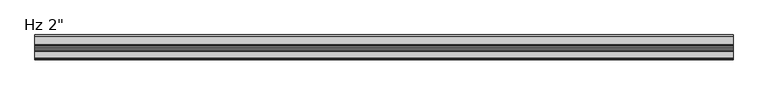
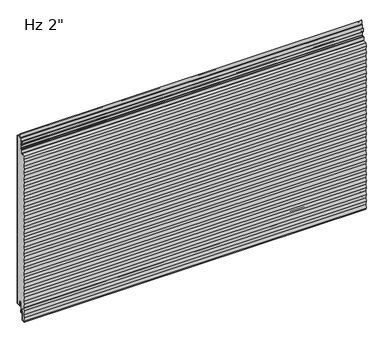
"""IFC4 building model written with IfcOpenShell, lengths in millimetres: plate geometry."""

from ifc_helpers import new_model, si_unit, point, frame, frame_2d, origin, place, context, project, spatial, polyline, circle_curve, ellipse_curve, trimmed, segment, composite_curve, outline, extrude, source, transform, mapped, element, save
from ifc_brep_helpers import plane_surface, cylinder_surface, revolved_surface, extruded_surface, advanced_brep


def plate_5dd44344(model_context):
    return source(origin(), model_context, "Body", "SolidModel", [
        extrude(outline(composite_curve([segment(polyline([(-22.8125, 716.9620957), (-22.8125, 760.20625), (-2.38125, 760.20625)]), True, "CONTINUOUS"), segment(trimmed(circle_curve(frame_2d((-2.38125, 758.825)), 1.38125), [point((-2.38125, 760.20625))], [point((-1.0, 758.825))], False, "CARTESIAN"), True, "CONTINUOUS"), segment(polyline([(-1.0, 758.825), (-1.0, 3.175)]), True, "CONTINUOUS"), segment(trimmed(circle_curve(frame_2d((-2.38125, 3.175)), 1.38125), [point((-1.0, 3.175))], [point((-2.38125, 1.79375))], False, "CARTESIAN"), True, "CONTINUOUS"), segment(polyline([(-2.38125, 1.79375), (-15.08125, 1.79375)]), True, "CONTINUOUS"), segment(trimmed(circle_curve(frame_2d((-15.08125, 3.175)), 1.38125), [point((-15.08125, 1.79375))], [point((-16.4625, 3.175))], False, "CARTESIAN"), True, "CONTINUOUS"), segment(polyline([(-16.4625, 3.175), (-16.4625, 19.05)]), True, "CONTINUOUS"), segment(trimmed(circle_curve(frame_2d((-21.43125, 19.05)), 4.96875), [point((-16.4625, 19.05))], [point((-26.4, 19.05))], True, "CARTESIAN"), True, "CONTINUOUS"), segment(polyline([(-26.4, 19.05), (-26.4, -6.9375), (-30.95625, -6.9375)]), True, "CONTINUOUS"), segment(trimmed(circle_curve(frame_2d((-30.95625, -11.90625)), 4.96875), [point((-30.95625, -6.9375))], [point((-35.925, -11.90625))], True, "CARTESIAN"), True, "CONTINUOUS"), segment(polyline([(-35.925, -11.90625), (-35.925, -50.0895546)]), True, "CONTINUOUS"), segment(trimmed(circle_curve(frame_2d((-37.30625, -50.0895546)), 1.38125), [point((-35.925, -50.0895546))], [point((-37.233961, -51.4689117))], False, "CARTESIAN"), True, "CONTINUOUS"), segment(polyline([(-37.233961, -51.4689117), (-50.4085109, -52.1593606), (-50.9378194, -48.8511825), (-48.4994194, -33.6111825), (-50.9378194, -18.3711825), (-48.4994194, -3.1311825), (-50.9378194, 12.1088175), (-48.4994194, 27.3488175), (-50.9378194, 42.5888175), (-48.4994194, 57.8288175), (-50.9378194, 73.0688175), (-48.4994194, 88.3088175), (-50.9378194, 103.5488175), (-48.4994194, 118.7888175), (-50.9378194, 134.0288175), (-48.4994194, 149.2688175), (-50.9378194, 164.5088175), (-48.4994194, 179.7488175), (-50.9378194, 194.9888175), (-48.4994194, 210.2288175), (-50.9378194, 225.4688175), (-48.4994194, 240.7088175), (-50.9378194, 255.9488175), (-48.4994194, 271.1888175), (-50.9378194, 286.4288175), (-48.4994194, 301.6688175), (-50.9378194, 316.9088175), (-48.4994194, 332.1488175), (-50.9378194, 347.3888175), (-48.4994194, 362.6288175), (-50.9378194, 377.8688175), (-48.4994194, 393.1088175), (-50.9378194, 408.3488175), (-48.4994194, 423.5888175), (-50.9378194, 438.8288175), (-48.4994194, 454.0688175), (-50.9378194, 469.3088175), (-48.4994194, 484.5488175), (-50.9378194, 499.7888175), (-48.4994194, 515.0288175), (-50.9378194, 530.2688175), (-48.4994194, 545.5088175), (-50.9378194, 560.7488175), (-48.4994194, 575.9888175), (-50.9378194, 591.2288175), (-48.4994194, 606.4688175), (-50.9378194, 621.7088175), (-48.4994194, 636.9488175), (-50.9378194, 652.1888175), (-48.4994194, 667.4288175), (-50.9378194, 682.6688175), (-48.9326745, 695.2009726), (-34.7895807, 695.9421807)]), True, "CONTINUOUS"), segment(trimmed(circle_curve(frame_2d((-34.925, 698.5261347)), 2.5875), [point((-34.7895807, 695.9421807))], [point((-32.3375, 698.5261347))], True, "CARTESIAN"), True, "CONTINUOUS"), segment(polyline([(-32.3375, 698.5261347), (-32.3375, 712.6967085)]), True, "CONTINUOUS"), segment(trimmed(circle_curve(frame_2d((-30.95625, 712.6967085)), 1.38125), [point((-32.3375, 712.6967085))], [point((-31.028539, 714.0760655))], False, "CARTESIAN"), True, "CONTINUOUS"), segment(polyline([(-31.028539, 714.0760655), (-25.2645807, 714.3781418)]), True, "CONTINUOUS"), segment(trimmed(circle_curve(frame_2d((-25.4, 716.9620957)), 2.5875), [point((-25.2645807, 714.3781418))], [point((-22.8125, 716.9620957))], True, "CARTESIAN"), True, "CONTINUOUS")], self_intersect=False)), frame((-730.0, 0.0, 0.0), z_axis=(1.0, 0.0, 0.0), x_axis=(0.0, 1.0, 0.0)), (0.0, 0.0, 1.0), 1460.0),
        extrude(outline(composite_curve([segment(polyline([(-25.4, 0.79375), (-26.4, 0.79375), (-26.4, 19.05)]), True, "CONTINUOUS"), segment(trimmed(circle_curve(frame_2d((-21.43125, 19.05)), 4.96875), [point((-26.4, 19.05))], [point((-16.4625, 19.05))], False, "CARTESIAN"), True, "CONTINUOUS"), segment(polyline([(-16.4625, 19.05), (-16.4625, 3.175)]), True, "CONTINUOUS"), segment(trimmed(circle_curve(frame_2d((-15.08125, 3.175)), 1.38125), [point((-16.4625, 3.175))], [point((-15.08125, 1.79375))], True, "CARTESIAN"), True, "CONTINUOUS"), segment(polyline([(-15.08125, 1.79375), (-2.38125, 1.79375)]), True, "CONTINUOUS"), segment(trimmed(circle_curve(frame_2d((-2.38125, 3.175)), 1.38125), [point((-2.38125, 1.79375))], [point((-1.0, 3.175))], True, "CARTESIAN"), True, "CONTINUOUS"), segment(polyline([(-1.0, 3.175), (-1.0, 758.825)]), True, "CONTINUOUS"), segment(trimmed(circle_curve(frame_2d((-2.38125, 758.825)), 1.38125), [point((-1.0, 758.825))], [point((-2.38125, 760.20625))], True, "CARTESIAN"), True, "CONTINUOUS"), segment(polyline([(-2.38125, 760.20625), (-19.446875, 760.20625)]), True, "CONTINUOUS"), segment(trimmed(circle_curve(frame_2d((-19.446875, 762.79375)), 2.5875), [point((-19.446875, 760.20625))], [point((-22.034375, 762.79375))], False, "CARTESIAN"), True, "CONTINUOUS"), segment(polyline([(-22.034375, 762.79375), (-22.034375, 780.25625), (-21.034375, 780.25625), (-21.034375, 762.79375)]), True, "CONTINUOUS"), segment(trimmed(circle_curve(frame_2d((-19.446875, 762.79375)), 1.5875), [point((-21.034375, 762.79375))], [point((-19.446875, 761.20625))], True, "CARTESIAN"), True, "CONTINUOUS"), segment(polyline([(-19.446875, 761.20625), (-2.38125, 761.20625)]), True, "CONTINUOUS"), segment(trimmed(circle_curve(frame_2d((-2.38125, 758.825)), 2.38125), [point((-2.38125, 761.20625))], [point((0.0, 758.825))], False, "CARTESIAN"), True, "CONTINUOUS"), segment(polyline([(0.0, 758.825), (0.0, 3.175)]), True, "CONTINUOUS"), segment(trimmed(circle_curve(frame_2d((-2.38125, 3.175)), 2.38125), [point((0.0, 3.175))], [point((-2.38125, 0.79375))], False, "CARTESIAN"), True, "CONTINUOUS"), segment(polyline([(-2.38125, 0.79375), (-15.08125, 0.79375)]), True, "CONTINUOUS"), segment(trimmed(circle_curve(frame_2d((-15.08125, 3.175)), 2.38125), [point((-15.08125, 0.79375))], [point((-17.4625, 3.175))], False, "CARTESIAN"), True, "CONTINUOUS"), segment(polyline([(-17.4625, 3.175), (-17.4625, 19.05)]), True, "CONTINUOUS"), segment(trimmed(circle_curve(frame_2d((-21.43125, 19.05)), 3.96875), [point((-17.4625, 19.05))], [point((-25.4, 19.05))], True, "CARTESIAN"), True, "CONTINUOUS"), segment(polyline([(-25.4, 19.05), (-25.4, 0.79375)]), True, "CONTINUOUS")], self_intersect=False)), frame((-730.0, 0.0, 0.0), z_axis=(1.0, 0.0, 0.0), x_axis=(0.0, 1.0, 0.0)), (0.0, 0.0, 1.0), 1460.0),
        advanced_brep(
        [(-730.0, -25.4, -23.2314549), (-730.0, -26.9875, -23.2314549), (-730.0, -26.9875, -11.9205174), (-730.0, -34.925, -11.9205174), (-730.0, -34.925, -50.1038221), (-730.0, -37.181625, -52.4818086), (-730.0, -51.3543553, -53.22457), (-730.0, -52.0509395, -48.8709186), (-730.0, -49.6125395, -33.6309186), (-730.0, -52.0509395, -18.3909186), (-730.0, -49.6125395, -3.1509186), (-730.0, -52.0509395, 12.0890814), (-730.0, -49.6125395, 27.3290814), (-730.0, -52.0509395, 42.5690814), (-730.0, -49.6125395, 57.8090814), (-730.0, -52.0509395, 73.0490814), (-730.0, -49.6125395, 88.2890814), (-730.0, -52.0509395, 103.5290814), (-730.0, -49.6125395, 118.7690814), (-730.0, -52.0509395, 134.0090814), (-730.0, -49.6125395, 149.2490814), (-730.0, -52.0509395, 164.4890814), (-730.0, -49.6125395, 179.7290814), (-730.0, -52.0509395, 194.9690814), (-730.0, -49.6125395, 210.2090814), (-730.0, -52.0509395, 225.4490814), (-730.0, -49.6125395, 240.6890814), (-730.0, -52.0509395, 255.9290814), (-730.0, -49.6125395, 271.1690814), (-730.0, -52.0509395, 286.4090814), (-730.0, -49.6125395, 301.6490814), (-730.0, -52.0509395, 316.8890814), (-730.0, -49.6125395, 332.1290814), (-730.0, -52.0509395, 347.3690814), (-730.0, -49.6125395, 362.6090814), (-730.0, -52.0509395, 377.8490814), (-730.0, -49.6125395, 393.0890814), (-730.0, -52.0509395, 408.3290814), (-730.0, -49.6125395, 423.5690814), (-730.0, -52.0509395, 438.8090814), (-730.0, -49.6125395, 454.0490814), (-730.0, -52.0509395, 469.2890814), (-730.0, -49.6125395, 484.5290814), (-730.0, -52.0509395, 499.7690814), (-730.0, -49.6125395, 515.0090814), (-730.0, -52.0509395, 530.2490814), (-730.0, -49.6125395, 545.4890814), (-730.0, -52.0509395, 560.7290814), (-730.0, -49.6125395, 575.9690814), (-730.0, -52.0509395, 591.2090814), (-730.0, -49.6125395, 606.4490814), (-730.0, -52.0509395, 621.6890814), (-730.0, -49.6125395, 636.9290814), (-730.0, -52.0509395, 652.1690814), (-730.0, -49.6125395, 667.4090814), (-730.0, -52.0428368, 682.5984395), (-730.0, -49.874106, 696.1530066), (-730.0, -34.8419167, 696.9408103), (-730.0, -33.3375, 698.5261347), (-730.0, -33.3375, 712.6824411), (-730.0, -31.080875, 715.0604276), (-730.0, -25.3169167, 715.3625039), (-730.0, -23.8125, 716.9478283), (-730.0, -23.8125, 731.8232326), (-730.0, -25.4, 733.4107326), (-730.0, -29.5671875, 733.4107326), (-730.0, -31.9484375, 735.7919826), (-730.0, -31.9484375, 750.2836032), (-730.0, -30.1546875, 750.2836032), (-730.0, -30.1546875, 740.5544826), (-730.0, -30.9484375, 740.5544826), (-730.0, -30.9484375, 735.7919826), (-730.0, -29.5671875, 734.4107326), (-730.0, -25.4, 734.4107326), (-730.0, -22.8125, 731.8232326), (-730.0, -22.8125, 716.9478283), (-730.0, -25.2645807, 714.3638744), (-730.0, -31.028539, 714.0617981), (-730.0, -32.3375, 712.6824411), (-730.0, -32.3375, 698.5261347), (-730.0, -34.7895807, 695.9421807), (-730.0, -49.0143976, 695.1966897), (-730.0, -51.0301177, 682.5984395), (-730.0, -48.5998204, 667.4090814), (-730.0, -51.0382204, 652.1690814), (-730.0, -48.5998204, 636.9290814), (-730.0, -51.0382204, 621.6890814), (-730.0, -48.5998204, 606.4490814), (-730.0, -51.0382204, 591.2090814), (-730.0, -48.5998204, 575.9690814), (-730.0, -51.0382204, 560.7290814), (-730.0, -48.5998204, 545.4890814), (-730.0, -51.0382204, 530.2490814), (-730.0, -48.5998204, 515.0090814), (-730.0, -51.0382204, 499.7690814), (-730.0, -48.5998204, 484.5290814), (-730.0, -51.0382204, 469.2890814), (-730.0, -48.5998204, 454.0490814), (-730.0, -51.0382204, 438.8090814), (-730.0, -48.5998204, 423.5690814), (-730.0, -51.0382204, 408.3290814), (-730.0, -48.5998204, 393.0890814), (-730.0, -51.0382204, 377.8490814), (-730.0, -48.5998204, 362.6090814), (-730.0, -51.0382204, 347.3690814), (-730.0, -48.5998204, 332.1290814), (-730.0, -51.0382204, 316.8890814), (-730.0, -48.5998204, 301.6490814), (-730.0, -51.0382204, 286.4090814), (-730.0, -48.5998204, 271.1690814), (-730.0, -51.0382204, 255.9290814), (-730.0, -48.5998204, 240.6890814), (-730.0, -51.0382204, 225.4490814), (-730.0, -48.5998204, 210.2090814), (-730.0, -51.0382204, 194.9690814), (-730.0, -48.5998204, 179.7290814), (-730.0, -51.0382204, 164.4890814), (-730.0, -48.5998204, 149.2490814), (-730.0, -51.0382204, 134.0090814), (-730.0, -48.5998204, 118.7690814), (-730.0, -51.0382204, 103.5290814), (-730.0, -48.5998204, 88.2890814), (-730.0, -51.0382204, 73.0490814), (-730.0, -48.5998204, 57.8090814), (-730.0, -51.0382204, 42.5690814), (-730.0, -48.5998204, 27.3290814), (-730.0, -51.0382204, 12.0890814), (-730.0, -48.5998204, -3.1509186), (-730.0, -51.0382204, -18.3909186), (-730.0, -48.5998204, -33.6309186), (-730.0, -51.0382204, -48.8709186), (-730.0, -50.5089447, -52.1788915), (-730.0, -37.233961, -51.4831791), (-730.0, -35.925, -50.1038221), (-730.0, -35.925, -11.9205174), (-730.0, -25.9875, -11.9205174), (-730.0, -26.19375, -13.5080174), (-730.0, -25.4, -13.5080174), (730.0, -25.4, -23.2314549), (730.0, -25.4, -13.5080174), (730.0, -26.19375, -13.5080174), (730.0, -25.9875, -11.9205174), (730.0, -35.925, -11.9205174), (730.0, -35.925, -50.1038221), (730.0, -37.233961, -51.4831791), (730.0, -50.5089447, -52.1788915), (730.0, -51.0382204, -48.8709186), (730.0, -48.5998204, -33.6309186), (730.0, -51.0382204, -18.3909186), (730.0, -48.5998204, -3.1509186), (730.0, -51.0382204, 12.0890814), (730.0, -48.5998204, 27.3290814), (730.0, -51.0382204, 42.5690814), (730.0, -48.5998204, 57.8090814), (730.0, -51.0382204, 73.0490814), (730.0, -48.5998204, 88.2890814), (730.0, -51.0382204, 103.5290814), (730.0, -48.5998204, 118.7690814), (730.0, -51.0382204, 134.0090814), (730.0, -48.5998204, 149.2490814), (730.0, -51.0382204, 164.4890814), (730.0, -48.5998204, 179.7290814), (730.0, -51.0382204, 194.9690814), (730.0, -48.5998204, 210.2090814), (730.0, -51.0382204, 225.4490814), (730.0, -48.5998204, 240.6890814), (730.0, -51.0382204, 255.9290814), (730.0, -48.5998204, 271.1690814), (730.0, -51.0382204, 286.4090814), (730.0, -48.5998204, 301.6490814), (730.0, -51.0382204, 316.8890814), (730.0, -48.5998204, 332.1290814), (730.0, -51.0382204, 347.3690814), (730.0, -48.5998204, 362.6090814), (730.0, -51.0382204, 377.8490814), (730.0, -48.5998204, 393.0890814), (730.0, -51.0382204, 408.3290814), (730.0, -48.5998204, 423.5690814), (730.0, -51.0382204, 438.8090814), (730.0, -48.5998204, 454.0490814), (730.0, -51.0382204, 469.2890814), (730.0, -48.5998204, 484.5290814), (730.0, -51.0382204, 499.7690814), (730.0, -48.5998204, 515.0090814), (730.0, -51.0382204, 530.2490814), (730.0, -48.5998204, 545.4890814), (730.0, -51.0382204, 560.7290814), (730.0, -48.5998204, 575.9690814), (730.0, -51.0382204, 591.2090814), (730.0, -48.5998204, 606.4490814), (730.0, -51.0382204, 621.6890814), (730.0, -48.5998204, 636.9290814), (730.0, -51.0382204, 652.1690814), (730.0, -48.5998204, 667.4090814), (730.0, -51.0301177, 682.5984395), (730.0, -49.0143976, 695.1966897), (730.0, -34.7895807, 695.9421807), (730.0, -32.3375, 698.5261347), (730.0, -32.3375, 712.6824411), (730.0, -31.028539, 714.0617981), (730.0, -25.2645807, 714.3638744), (730.0, -22.8125, 716.9478283), (730.0, -22.8125, 731.8232326), (730.0, -25.4, 734.4107326), (730.0, -29.5671875, 734.4107326), (730.0, -30.9484375, 735.7919826), (730.0, -30.9484375, 740.5544826), (730.0, -30.1546875, 740.5544826), (730.0, -30.1546875, 750.2836032), (730.0, -31.9484375, 750.2836032), (730.0, -31.9484375, 735.7919826), (730.0, -29.5671875, 733.4107326), (730.0, -25.4, 733.4107326), (730.0, -23.8125, 731.8232326), (730.0, -23.8125, 716.9478283), (730.0, -25.3169167, 715.3625039), (730.0, -31.080875, 715.0604276), (730.0, -33.3375, 712.6824411), (730.0, -33.3375, 698.5261347), (730.0, -34.8419167, 696.9408103), (730.0, -49.874106, 696.1530066), (730.0, -52.0428368, 682.5984395), (730.0, -49.6125395, 667.4090814), (730.0, -52.0509395, 652.1690814), (730.0, -49.6125395, 636.9290814), (730.0, -52.0509395, 621.6890814), (730.0, -49.6125395, 606.4490814), (730.0, -52.0509395, 591.2090814), (730.0, -49.6125395, 575.9690814), (730.0, -52.0509395, 560.7290814), (730.0, -49.6125395, 545.4890814), (730.0, -52.0509395, 530.2490814), (730.0, -49.6125395, 515.0090814), (730.0, -52.0509395, 499.7690814), (730.0, -49.6125395, 484.5290814), (730.0, -52.0509395, 469.2890814), (730.0, -49.6125395, 454.0490814), (730.0, -52.0509395, 438.8090814), (730.0, -49.6125395, 423.5690814), (730.0, -52.0509395, 408.3290814), (730.0, -49.6125395, 393.0890814), (730.0, -52.0509395, 377.8490814), (730.0, -49.6125395, 362.6090814), (730.0, -52.0509395, 347.3690814), (730.0, -49.6125395, 332.1290814), (730.0, -52.0509395, 316.8890814), (730.0, -49.6125395, 301.6490814), (730.0, -52.0509395, 286.4090814), (730.0, -49.6125395, 271.1690814), (730.0, -52.0509395, 255.9290814), (730.0, -49.6125395, 240.6890814), (730.0, -52.0509395, 225.4490814), (730.0, -49.6125395, 210.2090814), (730.0, -52.0509395, 194.9690814), (730.0, -49.6125395, 179.7290814), (730.0, -52.0509395, 164.4890814), (730.0, -49.6125395, 149.2490814), (730.0, -52.0509395, 134.0090814), (730.0, -49.6125395, 118.7690814), (730.0, -52.0509395, 103.5290814), (730.0, -49.6125395, 88.2890814), (730.0, -52.0509395, 73.0490814), (730.0, -49.6125395, 57.8090814), (730.0, -52.0509395, 42.5690814), (730.0, -49.6125395, 27.3290814), (730.0, -52.0509395, 12.0890814), (730.0, -49.6125395, -3.1509186), (730.0, -52.0509395, -18.3909186), (730.0, -49.6125395, -33.6309186), (730.0, -52.0509395, -48.8709186), (730.0, -51.3543553, -53.22457), (730.0, -37.181625, -52.4818086), (730.0, -34.925, -50.1038221), (730.0, -34.925, -11.9205174), (730.0, -26.9875, -11.9205174), (730.0, -26.9875, -23.2314549)],
        [
            (0, 1, circle_curve(frame((-730.0, -26.19375, -23.2314549), z_axis=(-1.0, 0.0, 0.0), x_axis=(0.0, 0.0, -1.0)), 0.79375)),
            (1, 2),
            (2, 3, circle_curve(frame((-730.0, -30.95625, -11.9205174), z_axis=(1.0, 0.0, 0.0), x_axis=(0.0, 0.0, -1.0)), 3.96875)),
            (3, 4),
            (4, 5, circle_curve(frame((-730.0, -37.30625, -50.1038221), z_axis=(-1.0, 0.0, 0.0), x_axis=(0.0, 0.0, -1.0)), 2.38125)),
            (5, 6),
            (6, 7),
            (7, 8),
            (8, 9),
            (9, 10),
            (10, 11),
            (11, 12),
            (12, 13),
            (13, 14),
            (14, 15),
            (15, 16),
            (16, 17),
            (17, 18),
            (18, 19),
            (19, 20),
            (20, 21),
            (21, 22),
            (22, 23),
            (23, 24),
            (24, 25),
            (25, 26),
            (26, 27),
            (27, 28),
            (28, 29),
            (29, 30),
            (30, 31),
            (31, 32),
            (32, 33),
            (33, 34),
            (34, 35),
            (35, 36),
            (36, 37),
            (37, 38),
            (38, 39),
            (39, 40),
            (40, 41),
            (41, 42),
            (42, 43),
            (43, 44),
            (44, 45),
            (45, 46),
            (46, 47),
            (47, 48),
            (48, 49),
            (49, 50),
            (50, 51),
            (51, 52),
            (52, 53),
            (53, 54),
            (54, 55),
            (55, 56),
            (56, 57),
            (57, 58, circle_curve(frame((-730.0, -34.925, 698.5261347), z_axis=(1.0, 0.0, 0.0), x_axis=(0.0, 0.0, -1.0)), 1.5875)),
            (58, 59),
            (59, 60, circle_curve(frame((-730.0, -30.95625, 712.6824411), z_axis=(-1.0, 0.0, 0.0), x_axis=(0.0, 0.0, -1.0)), 2.38125)),
            (60, 61),
            (61, 62, circle_curve(frame((-730.0, -25.4, 716.9478283), z_axis=(1.0, 0.0, 0.0), x_axis=(0.0, 0.0, -1.0)), 1.5875)),
            (62, 63),
            (63, 64, circle_curve(frame((-730.0, -25.4, 731.8232326), z_axis=(1.0, 0.0, 0.0), x_axis=(0.0, 0.0, -1.0)), 1.5875)),
            (64, 65),
            (65, 66, circle_curve(frame((-730.0, -29.5671875, 735.7919826), z_axis=(-1.0, 0.0, 0.0), x_axis=(0.0, 0.0, -1.0)), 2.38125)),
            (66, 67),
            (67, 68, ellipse_curve(frame((-730.0, -31.0515625, 750.2836032), z_axis=(-1.0, 0.0, 0.0), x_axis=(0.0, 1.0, 0.0)), 0.896875, 0.7852275)),
            (68, 69),
            (69, 70),
            (70, 71),
            (71, 72, circle_curve(frame((-730.0, -29.5671875, 735.7919826), z_axis=(1.0, 0.0, 0.0), x_axis=(0.0, 0.0, -1.0)), 1.38125)),
            (72, 73),
            (73, 74, circle_curve(frame((-730.0, -25.4, 731.8232326), z_axis=(-1.0, 0.0, 0.0), x_axis=(0.0, 0.0, -1.0)), 2.5875)),
            (74, 75),
            (75, 76, circle_curve(frame((-730.0, -25.4, 716.9478283), z_axis=(-1.0, 0.0, 0.0), x_axis=(0.0, 0.0, -1.0)), 2.5875)),
            (76, 77),
            (77, 78, circle_curve(frame((-730.0, -30.95625, 712.6824411), z_axis=(1.0, 0.0, 0.0), x_axis=(0.0, 0.0, -1.0)), 1.38125)),
            (78, 79),
            (79, 80, circle_curve(frame((-730.0, -34.925, 698.5261347), z_axis=(-1.0, 0.0, 0.0), x_axis=(0.0, 0.0, -1.0)), 2.5875)),
            (80, 81),
            (81, 82),
            (82, 83),
            (83, 84),
            (84, 85),
            (85, 86),
            (86, 87),
            (87, 88),
            (88, 89),
            (89, 90),
            (90, 91),
            (91, 92),
            (92, 93),
            (93, 94),
            (94, 95),
            (95, 96),
            (96, 97),
            (97, 98),
            (98, 99),
            (99, 100),
            (100, 101),
            (101, 102),
            (102, 103),
            (103, 104),
            (104, 105),
            (105, 106),
            (106, 107),
            (107, 108),
            (108, 109),
            (109, 110),
            (110, 111),
            (111, 112),
            (112, 113),
            (113, 114),
            (114, 115),
            (115, 116),
            (116, 117),
            (117, 118),
            (118, 119),
            (119, 120),
            (120, 121),
            (121, 122),
            (122, 123),
            (123, 124),
            (124, 125),
            (125, 126),
            (126, 127),
            (127, 128),
            (128, 129),
            (129, 130),
            (130, 131),
            (131, 132),
            (132, 133, circle_curve(frame((-730.0, -37.30625, -50.1038221), z_axis=(1.0, 0.0, 0.0), x_axis=(0.0, 0.0, -1.0)), 1.38125)),
            (133, 134),
            (134, 135, circle_curve(frame((-730.0, -30.95625, -11.9205174), z_axis=(-1.0, 0.0, 0.0), x_axis=(0.0, 0.0, -1.0)), 4.96875)),
            (135, 136),
            (136, 137),
            (137, 0),
            (138, 139),
            (139, 140),
            (140, 141),
            (141, 142, circle_curve(frame((730.0, -30.95625, -11.9205174), z_axis=(1.0, 0.0, 0.0), x_axis=(0.0, 0.0, -1.0)), 4.96875)),
            (142, 143),
            (143, 144, circle_curve(frame((730.0, -37.30625, -50.1038221), z_axis=(-1.0, 0.0, 0.0), x_axis=(0.0, 0.0, -1.0)), 1.38125)),
            (144, 145),
            (145, 146),
            (146, 147),
            (147, 148),
            (148, 149),
            (149, 150),
            (150, 151),
            (151, 152),
            (152, 153),
            (153, 154),
            (154, 155),
            (155, 156),
            (156, 157),
            (157, 158),
            (158, 159),
            (159, 160),
            (160, 161),
            (161, 162),
            (162, 163),
            (163, 164),
            (164, 165),
            (165, 166),
            (166, 167),
            (167, 168),
            (168, 169),
            (169, 170),
            (170, 171),
            (171, 172),
            (172, 173),
            (173, 174),
            (174, 175),
            (175, 176),
            (176, 177),
            (177, 178),
            (178, 179),
            (179, 180),
            (180, 181),
            (181, 182),
            (182, 183),
            (183, 184),
            (184, 185),
            (185, 186),
            (186, 187),
            (187, 188),
            (188, 189),
            (189, 190),
            (190, 191),
            (191, 192),
            (192, 193),
            (193, 194),
            (194, 195),
            (195, 196),
            (196, 197, circle_curve(frame((730.0, -34.925, 698.5261347), z_axis=(1.0, 0.0, 0.0), x_axis=(0.0, 0.0, -1.0)), 2.5875)),
            (197, 198),
            (198, 199, circle_curve(frame((730.0, -30.95625, 712.6824411), z_axis=(-1.0, 0.0, 0.0), x_axis=(0.0, 0.0, -1.0)), 1.38125)),
            (199, 200),
            (200, 201, circle_curve(frame((730.0, -25.4, 716.9478283), z_axis=(1.0, 0.0, 0.0), x_axis=(0.0, 0.0, -1.0)), 2.5875)),
            (201, 202),
            (202, 203, circle_curve(frame((730.0, -25.4, 731.8232326), z_axis=(1.0, 0.0, 0.0), x_axis=(0.0, 0.0, -1.0)), 2.5875)),
            (203, 204),
            (204, 205, circle_curve(frame((730.0, -29.5671875, 735.7919826), z_axis=(-1.0, 0.0, 0.0), x_axis=(0.0, 0.0, -1.0)), 1.38125)),
            (205, 206),
            (206, 207),
            (207, 208),
            (208, 209, ellipse_curve(frame((730.0, -31.0515625, 750.2836032), z_axis=(1.0, 0.0, 0.0), x_axis=(0.0, 1.0, 0.0)), 0.896875, 0.7852275)),
            (209, 210),
            (210, 211, circle_curve(frame((730.0, -29.5671875, 735.7919826), z_axis=(1.0, 0.0, 0.0), x_axis=(0.0, 0.0, -1.0)), 2.38125)),
            (211, 212),
            (212, 213, circle_curve(frame((730.0, -25.4, 731.8232326), z_axis=(-1.0, 0.0, 0.0), x_axis=(0.0, 0.0, -1.0)), 1.5875)),
            (213, 214),
            (214, 215, circle_curve(frame((730.0, -25.4, 716.9478283), z_axis=(-1.0, 0.0, 0.0), x_axis=(0.0, 0.0, -1.0)), 1.5875)),
            (215, 216),
            (216, 217, circle_curve(frame((730.0, -30.95625, 712.6824411), z_axis=(1.0, 0.0, 0.0), x_axis=(0.0, 0.0, -1.0)), 2.38125)),
            (217, 218),
            (218, 219, circle_curve(frame((730.0, -34.925, 698.5261347), z_axis=(-1.0, 0.0, 0.0), x_axis=(0.0, 0.0, -1.0)), 1.5875)),
            (219, 220),
            (220, 221),
            (221, 222),
            (222, 223),
            (223, 224),
            (224, 225),
            (225, 226),
            (226, 227),
            (227, 228),
            (228, 229),
            (229, 230),
            (230, 231),
            (231, 232),
            (232, 233),
            (233, 234),
            (234, 235),
            (235, 236),
            (236, 237),
            (237, 238),
            (238, 239),
            (239, 240),
            (240, 241),
            (241, 242),
            (242, 243),
            (243, 244),
            (244, 245),
            (245, 246),
            (246, 247),
            (247, 248),
            (248, 249),
            (249, 250),
            (250, 251),
            (251, 252),
            (252, 253),
            (253, 254),
            (254, 255),
            (255, 256),
            (256, 257),
            (257, 258),
            (258, 259),
            (259, 260),
            (260, 261),
            (261, 262),
            (262, 263),
            (263, 264),
            (264, 265),
            (265, 266),
            (266, 267),
            (267, 268),
            (268, 269),
            (269, 270),
            (270, 271),
            (271, 272, circle_curve(frame((730.0, -37.30625, -50.1038221), z_axis=(1.0, 0.0, 0.0), x_axis=(0.0, 0.0, -1.0)), 2.38125)),
            (272, 273),
            (273, 274, circle_curve(frame((730.0, -30.95625, -11.9205174), z_axis=(-1.0, 0.0, 0.0), x_axis=(0.0, 0.0, -1.0)), 3.96875)),
            (274, 275),
            (275, 138, circle_curve(frame((730.0, -26.19375, -23.2314549), z_axis=(1.0, 0.0, 0.0), x_axis=(0.0, 0.0, -1.0)), 0.79375)),
            (118, 158),
            (157, 119),
            (156, 120),
            (155, 121),
            (131, 145),
            (144, 132),
            (143, 133),
            (142, 134),
            (141, 135),
            (136, 140),
            (139, 137),
            (69, 207),
            (206, 70),
            (68, 208),
            (67, 209),
            (56, 220),
            (219, 57),
            (80, 196),
            (195, 81),
            (54, 222),
            (221, 55),
            (82, 194),
            (193, 83),
            (192, 84),
            (191, 85),
            (21, 255),
            (254, 22),
            (253, 23),
            (252, 24),
            (251, 25),
            (250, 26),
            (249, 27),
            (102, 174),
            (173, 103),
            (172, 104),
            (171, 105),
            (170, 106),
            (169, 107),
            (168, 108),
            (167, 109),
            (166, 110),
            (248, 28),
            (247, 29),
            (246, 30),
            (52, 224),
            (223, 53),
            (165, 111),
            (164, 112),
            (163, 113),
            (162, 114),
            (161, 115),
            (160, 116),
            (159, 117),
            (19, 257),
            (256, 20),
            (51, 225),
            (50, 226),
            (190, 86),
            (48, 228),
            (227, 49),
            (46, 230),
            (229, 47),
            (44, 232),
            (231, 45),
            (93, 183),
            (182, 94),
            (43, 233),
            (91, 185),
            (184, 92),
            (89, 187),
            (186, 90),
            (87, 189),
            (188, 88),
            (42, 234),
            (40, 236),
            (235, 41),
            (38, 238),
            (237, 39),
            (36, 240),
            (239, 37),
            (101, 175),
            (35, 241),
            (99, 177),
            (176, 100),
            (97, 179),
            (178, 98),
            (95, 181),
            (180, 96),
            (34, 242),
            (32, 244),
            (243, 33),
            (245, 31),
            (18, 258),
            (16, 260),
            (259, 17),
            (14, 262),
            (261, 15),
            (12, 264),
            (263, 13),
            (10, 266),
            (265, 11),
            (8, 268),
            (267, 9),
            (6, 270),
            (269, 7),
            (129, 147),
            (146, 130),
            (127, 149),
            (148, 128),
            (125, 151),
            (150, 126),
            (123, 153),
            (152, 124),
            (154, 122),
            (79, 197),
            (77, 199),
            (198, 78),
            (75, 201),
            (200, 76),
            (71, 205),
            (204, 72),
            (73, 203),
            (202, 74),
            (66, 210),
            (64, 212),
            (211, 65),
            (62, 214),
            (213, 63),
            (60, 216),
            (215, 61),
            (58, 218),
            (217, 59),
            (5, 271),
            (3, 273),
            (272, 4),
            (1, 275),
            (274, 2),
            (138, 0),
        ],
        [
            plane_surface(frame((-730.0, -50.8, 381.0), z_axis=(-1.0, 0.0, 0.0), x_axis=(0.0, -1.0, 0.0))),
            plane_surface(frame((730.0, -50.8, 381.0), z_axis=(1.0, 0.0, 0.0), x_axis=(0.0, -1.0, 0.0))),
            plane_surface(frame((-730.0, -48.5998204, 118.7690814), z_axis=(0.0, 0.9874406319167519, 0.1579905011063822), x_axis=(1.0, 0.0, 0.0))),
            plane_surface(frame((-730.0, -51.0382204, 103.5290814), z_axis=(0.0, 0.9874406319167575, -0.15799050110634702), x_axis=(1.0, 0.0, 0.0))),
            plane_surface(frame((-730.0, -48.5998204, 88.2890814), z_axis=(0.0, 0.987440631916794, 0.1579905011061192), x_axis=(1.0, 0.0, 0.0))),
            plane_surface(frame((-730.0, -37.233961, -51.4831791), z_axis=(0.0, -0.05233595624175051, 0.9986295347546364), x_axis=(1.0, 0.0, 0.0))),
            revolved_surface(polyline([(730.0, -37.30625, -51.485072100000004), (-730.0, -37.30625, -51.485072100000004)]), (-730.0, -37.30625, -50.1038221), (1.0, 0.0, 0.0)),
            plane_surface(frame((-730.0, -35.925, -11.9205174), z_axis=(0.0, -1.0, 0.0), x_axis=(1.0, 0.0, 0.0))),
            cylinder_surface(frame((-730.0, -30.95625, -11.9205174), z_axis=(-1.0, 0.0, 0.0), x_axis=(0.0, 0.0, -1.0)), 4.96875),
            plane_surface(frame((-730.0, -25.4, -13.5080174), z_axis=(0.0, 0.0, 1.0), x_axis=(1.0, 0.0, 0.0))),
            plane_surface(frame((-730.0, -26.19375, -13.5080174), z_axis=(0.0, 0.9916655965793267, -0.12883844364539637), x_axis=(1.0, 0.0, 0.0))),
            plane_surface(frame((-730.0, -30.9484375, 740.5544826), z_axis=(0.0, 0.0, -1.0), x_axis=(1.0, 0.0, 0.0))),
            plane_surface(frame((-730.0, -30.1546875, 740.5544826), z_axis=(0.0, 1.0, 0.0), x_axis=(1.0, 0.0, 0.0))),
            extruded_surface(trimmed(ellipse_curve(frame((-730.0, -31.0515625, 750.2836032), z_axis=(1.0, 0.0, 0.0), x_axis=(0.0, 1.0, 0.0)), 0.896875, 0.7852275), [point((-730.0, -30.1546875, 750.2836032))], [point((-730.0, -31.9484375, 750.2836032))], True, "CARTESIAN"), (1460.0, 0.0, 0.0), 1460.0),
            plane_surface(frame((-730.0, -34.8419167, 696.9408103), z_axis=(0.0, -0.052335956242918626, 0.9986295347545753), x_axis=(1.0, 0.0, 0.0))),
            plane_surface(frame((-730.0, -49.0143976, 695.1966897), z_axis=(0.0, 0.05233595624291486, -0.9986295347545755), x_axis=(1.0, 0.0, 0.0))),
            plane_surface(frame((-730.0, -52.0428368, 682.5984395), z_axis=(0.0, -0.9874406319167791, -0.15799050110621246), x_axis=(1.0, 0.0, 0.0))),
            plane_surface(frame((-730.0, -48.5998204, 667.4090814), z_axis=(0.0, 0.9874406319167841, 0.15799050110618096), x_axis=(1.0, 0.0, 0.0))),
            plane_surface(frame((-730.0, -51.0382204, 652.1690814), z_axis=(0.0, 0.9874406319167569, -0.15799050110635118), x_axis=(1.0, 0.0, 0.0))),
            plane_surface(frame((-730.0, -48.5998204, 636.9290814), z_axis=(0.0, 0.987440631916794, 0.15799050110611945), x_axis=(1.0, 0.0, 0.0))),
            plane_surface(frame((-730.0, -49.6125395, 179.7290814), z_axis=(0.0, -0.9874406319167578, 0.15799050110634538), x_axis=(1.0, 0.0, 0.0))),
            plane_surface(frame((-730.0, -52.0509395, 194.9690814), z_axis=(0.0, -0.9874406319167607, -0.15799050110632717), x_axis=(1.0, 0.0, 0.0))),
            plane_surface(frame((-730.0, -49.6125395, 210.2090814), z_axis=(0.0, -0.9874406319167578, 0.15799050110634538), x_axis=(1.0, 0.0, 0.0))),
            plane_surface(frame((-730.0, -52.0509395, 225.4490814), z_axis=(0.0, -0.9874406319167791, -0.15799050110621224), x_axis=(1.0, 0.0, 0.0))),
            plane_surface(frame((-730.0, -49.6125395, 240.6890814), z_axis=(0.0, -0.9874406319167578, 0.15799050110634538), x_axis=(1.0, 0.0, 0.0))),
            plane_surface(frame((-730.0, -52.0509395, 255.9290814), z_axis=(0.0, -0.9874406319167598, -0.15799050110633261), x_axis=(1.0, 0.0, 0.0))),
            plane_surface(frame((-730.0, -48.5998204, 362.6090814), z_axis=(0.0, 0.9874406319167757, 0.15799050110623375), x_axis=(1.0, 0.0, 0.0))),
            plane_surface(frame((-730.0, -51.0382204, 347.3690814), z_axis=(0.0, 0.9874406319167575, -0.15799050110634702), x_axis=(1.0, 0.0, 0.0))),
            plane_surface(frame((-730.0, -48.5998204, 332.1290814), z_axis=(0.0, 0.987440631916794, 0.1579905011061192), x_axis=(1.0, 0.0, 0.0))),
            plane_surface(frame((-730.0, -51.0382204, 316.8890814), z_axis=(0.0, 0.987440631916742, -0.15799050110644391), x_axis=(1.0, 0.0, 0.0))),
            plane_surface(frame((-730.0, -48.5998204, 301.6490814), z_axis=(0.0, 0.9874406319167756, 0.15799050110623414), x_axis=(1.0, 0.0, 0.0))),
            plane_surface(frame((-730.0, -51.0382204, 286.4090814), z_axis=(0.0, 0.9874406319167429, -0.15799050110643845), x_axis=(1.0, 0.0, 0.0))),
            plane_surface(frame((-730.0, -48.5998204, 271.1690814), z_axis=(0.0, 0.9874406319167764, 0.15799050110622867), x_axis=(1.0, 0.0, 0.0))),
            plane_surface(frame((-730.0, -51.0382204, 255.9290814), z_axis=(0.0, 0.9874406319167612, -0.1579905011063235), x_axis=(1.0, 0.0, 0.0))),
            plane_surface(frame((-730.0, -49.6125395, 271.1690814), z_axis=(0.0, -0.9874406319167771, 0.157990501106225), x_axis=(1.0, 0.0, 0.0))),
            plane_surface(frame((-730.0, -52.0509395, 286.4090814), z_axis=(0.0, -0.9874406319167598, -0.15799050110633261), x_axis=(1.0, 0.0, 0.0))),
            plane_surface(frame((-730.0, -49.6125395, 301.6490814), z_axis=(0.0, -0.9874406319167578, 0.15799050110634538), x_axis=(1.0, 0.0, 0.0))),
            plane_surface(frame((-730.0, -52.0509395, 652.1690814), z_axis=(0.0, -0.9874406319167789, -0.15799050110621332), x_axis=(1.0, 0.0, 0.0))),
            plane_surface(frame((-730.0, -49.6125395, 667.4090814), z_axis=(0.0, -0.9874406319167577, 0.15799050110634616), x_axis=(1.0, 0.0, 0.0))),
            plane_surface(frame((-730.0, -48.5998204, 240.6890814), z_axis=(0.0, 0.9874406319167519, 0.1579905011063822), x_axis=(1.0, 0.0, 0.0))),
            plane_surface(frame((-730.0, -51.0382204, 225.4490814), z_axis=(0.0, 0.9874406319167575, -0.15799050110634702), x_axis=(1.0, 0.0, 0.0))),
            plane_surface(frame((-730.0, -48.5998204, 210.2090814), z_axis=(0.0, 0.987440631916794, 0.1579905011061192), x_axis=(1.0, 0.0, 0.0))),
            plane_surface(frame((-730.0, -51.0382204, 194.9690814), z_axis=(0.0, 0.987440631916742, -0.15799050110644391), x_axis=(1.0, 0.0, 0.0))),
            plane_surface(frame((-730.0, -48.5998204, 179.7290814), z_axis=(0.0, 0.9874406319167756, 0.15799050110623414), x_axis=(1.0, 0.0, 0.0))),
            plane_surface(frame((-730.0, -51.0382204, 164.4890814), z_axis=(0.0, 0.9874406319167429, -0.15799050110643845), x_axis=(1.0, 0.0, 0.0))),
            plane_surface(frame((-730.0, -48.5998204, 149.2490814), z_axis=(0.0, 0.9874406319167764, 0.15799050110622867), x_axis=(1.0, 0.0, 0.0))),
            plane_surface(frame((-730.0, -51.0382204, 134.0090814), z_axis=(0.0, 0.9874406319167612, -0.1579905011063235), x_axis=(1.0, 0.0, 0.0))),
            plane_surface(frame((-730.0, -49.6125395, 149.2490814), z_axis=(0.0, -0.9874406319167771, 0.157990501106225), x_axis=(1.0, 0.0, 0.0))),
            plane_surface(frame((-730.0, -52.0509395, 164.4890814), z_axis=(0.0, -0.9874406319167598, -0.15799050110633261), x_axis=(1.0, 0.0, 0.0))),
            plane_surface(frame((-730.0, -49.874106, 696.1530066), z_axis=(0.0, -0.9874406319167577, 0.15799050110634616), x_axis=(1.0, 0.0, 0.0))),
            plane_surface(frame((-730.0, -49.6125395, 636.9290814), z_axis=(0.0, -0.9874406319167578, 0.15799050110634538), x_axis=(1.0, 0.0, 0.0))),
            plane_surface(frame((-730.0, -52.0509395, 621.6890814), z_axis=(0.0, -0.9874406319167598, -0.15799050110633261), x_axis=(1.0, 0.0, 0.0))),
            plane_surface(frame((-730.0, -51.0382204, 621.6890814), z_axis=(0.0, 0.9874406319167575, -0.15799050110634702), x_axis=(1.0, 0.0, 0.0))),
            plane_surface(frame((-730.0, -51.0301177, 682.5984395), z_axis=(0.0, 0.9874406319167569, -0.15799050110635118), x_axis=(1.0, 0.0, 0.0))),
            plane_surface(frame((-730.0, -52.0509395, 591.2090814), z_axis=(0.0, -0.9874406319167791, -0.15799050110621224), x_axis=(1.0, 0.0, 0.0))),
            plane_surface(frame((-730.0, -52.0509395, 560.7290814), z_axis=(0.0, -0.9874406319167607, -0.15799050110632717), x_axis=(1.0, 0.0, 0.0))),
            plane_surface(frame((-730.0, -49.6125395, 575.9690814), z_axis=(0.0, -0.9874406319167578, 0.15799050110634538), x_axis=(1.0, 0.0, 0.0))),
            plane_surface(frame((-730.0, -49.6125395, 606.4490814), z_axis=(0.0, -0.9874406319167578, 0.15799050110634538), x_axis=(1.0, 0.0, 0.0))),
            plane_surface(frame((-730.0, -52.0509395, 530.2490814), z_axis=(0.0, -0.9874406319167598, -0.15799050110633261), x_axis=(1.0, 0.0, 0.0))),
            plane_surface(frame((-730.0, -51.0382204, 499.7690814), z_axis=(0.0, 0.9874406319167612, -0.1579905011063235), x_axis=(1.0, 0.0, 0.0))),
            plane_surface(frame((-730.0, -49.6125395, 515.0090814), z_axis=(0.0, -0.9874406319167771, 0.157990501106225), x_axis=(1.0, 0.0, 0.0))),
            plane_surface(frame((-730.0, -49.6125395, 545.4890814), z_axis=(0.0, -0.9874406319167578, 0.15799050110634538), x_axis=(1.0, 0.0, 0.0))),
            plane_surface(frame((-730.0, -51.0382204, 530.2490814), z_axis=(0.0, 0.9874406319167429, -0.15799050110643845), x_axis=(1.0, 0.0, 0.0))),
            plane_surface(frame((-730.0, -51.0382204, 560.7290814), z_axis=(0.0, 0.987440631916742, -0.15799050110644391), x_axis=(1.0, 0.0, 0.0))),
            plane_surface(frame((-730.0, -48.5998204, 545.4890814), z_axis=(0.0, 0.9874406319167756, 0.15799050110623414), x_axis=(1.0, 0.0, 0.0))),
            plane_surface(frame((-730.0, -48.5998204, 515.0090814), z_axis=(0.0, 0.9874406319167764, 0.15799050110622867), x_axis=(1.0, 0.0, 0.0))),
            plane_surface(frame((-730.0, -51.0382204, 591.2090814), z_axis=(0.0, 0.9874406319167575, -0.15799050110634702), x_axis=(1.0, 0.0, 0.0))),
            plane_surface(frame((-730.0, -52.0509395, 499.7690814), z_axis=(0.0, -0.9874406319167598, -0.15799050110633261), x_axis=(1.0, 0.0, 0.0))),
            plane_surface(frame((-730.0, -48.5998204, 606.4490814), z_axis=(0.0, 0.9874406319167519, 0.1579905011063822), x_axis=(1.0, 0.0, 0.0))),
            plane_surface(frame((-730.0, -48.5998204, 575.9690814), z_axis=(0.0, 0.987440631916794, 0.1579905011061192), x_axis=(1.0, 0.0, 0.0))),
            plane_surface(frame((-730.0, -52.0509395, 469.2890814), z_axis=(0.0, -0.9874406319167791, -0.15799050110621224), x_axis=(1.0, 0.0, 0.0))),
            plane_surface(frame((-730.0, -52.0509395, 438.8090814), z_axis=(0.0, -0.9874406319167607, -0.15799050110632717), x_axis=(1.0, 0.0, 0.0))),
            plane_surface(frame((-730.0, -49.6125395, 454.0490814), z_axis=(0.0, -0.9874406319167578, 0.15799050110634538), x_axis=(1.0, 0.0, 0.0))),
            plane_surface(frame((-730.0, -49.6125395, 484.5290814), z_axis=(0.0, -0.9874406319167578, 0.15799050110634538), x_axis=(1.0, 0.0, 0.0))),
            plane_surface(frame((-730.0, -52.0509395, 408.3290814), z_axis=(0.0, -0.9874406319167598, -0.15799050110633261), x_axis=(1.0, 0.0, 0.0))),
            plane_surface(frame((-730.0, -51.0382204, 377.8490814), z_axis=(0.0, 0.9874406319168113, -0.1579905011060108), x_axis=(1.0, 0.0, 0.0))),
            plane_surface(frame((-730.0, -49.6125395, 393.0890814), z_axis=(0.0, -0.9874406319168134, 0.15799050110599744), x_axis=(1.0, 0.0, 0.0))),
            plane_surface(frame((-730.0, -49.6125395, 423.5690814), z_axis=(0.0, -0.9874406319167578, 0.15799050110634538), x_axis=(1.0, 0.0, 0.0))),
            plane_surface(frame((-730.0, -51.0382204, 408.3290814), z_axis=(0.0, 0.9874406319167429, -0.15799050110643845), x_axis=(1.0, 0.0, 0.0))),
            plane_surface(frame((-730.0, -51.0382204, 438.8090814), z_axis=(0.0, 0.987440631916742, -0.15799050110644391), x_axis=(1.0, 0.0, 0.0))),
            plane_surface(frame((-730.0, -48.5998204, 423.5690814), z_axis=(0.0, 0.9874406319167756, 0.15799050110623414), x_axis=(1.0, 0.0, 0.0))),
            plane_surface(frame((-730.0, -48.5998204, 393.0890814), z_axis=(0.0, 0.9874406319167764, 0.15799050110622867), x_axis=(1.0, 0.0, 0.0))),
            plane_surface(frame((-730.0, -51.0382204, 469.2890814), z_axis=(0.0, 0.9874406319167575, -0.15799050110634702), x_axis=(1.0, 0.0, 0.0))),
            plane_surface(frame((-730.0, -52.0509395, 377.8490814), z_axis=(0.0, -0.9874406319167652, -0.15799050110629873), x_axis=(1.0, 0.0, 0.0))),
            plane_surface(frame((-730.0, -48.5998204, 484.5290814), z_axis=(0.0, 0.9874406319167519, 0.1579905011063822), x_axis=(1.0, 0.0, 0.0))),
            plane_surface(frame((-730.0, -48.5998204, 454.0490814), z_axis=(0.0, 0.987440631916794, 0.1579905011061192), x_axis=(1.0, 0.0, 0.0))),
            plane_surface(frame((-730.0, -52.0509395, 347.3690814), z_axis=(0.0, -0.9874406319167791, -0.15799050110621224), x_axis=(1.0, 0.0, 0.0))),
            plane_surface(frame((-730.0, -52.0509395, 316.8890814), z_axis=(0.0, -0.9874406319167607, -0.15799050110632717), x_axis=(1.0, 0.0, 0.0))),
            plane_surface(frame((-730.0, -49.6125395, 332.1290814), z_axis=(0.0, -0.9874406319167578, 0.15799050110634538), x_axis=(1.0, 0.0, 0.0))),
            plane_surface(frame((-730.0, -49.6125395, 362.6090814), z_axis=(0.0, -0.9874406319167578, 0.15799050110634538), x_axis=(1.0, 0.0, 0.0))),
            plane_surface(frame((-730.0, -52.0509395, 134.0090814), z_axis=(0.0, -0.9874406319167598, -0.15799050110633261), x_axis=(1.0, 0.0, 0.0))),
            plane_surface(frame((-730.0, -52.0509395, 103.5290814), z_axis=(0.0, -0.9874406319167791, -0.15799050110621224), x_axis=(1.0, 0.0, 0.0))),
            plane_surface(frame((-730.0, -49.6125395, 118.7690814), z_axis=(0.0, -0.9874406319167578, 0.15799050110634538), x_axis=(1.0, 0.0, 0.0))),
            plane_surface(frame((-730.0, -52.0509395, 73.0490814), z_axis=(0.0, -0.9874406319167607, -0.15799050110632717), x_axis=(1.0, 0.0, 0.0))),
            plane_surface(frame((-730.0, -52.0509395, 42.5690814), z_axis=(0.0, -0.9874406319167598, -0.15799050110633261), x_axis=(1.0, 0.0, 0.0))),
            plane_surface(frame((-730.0, -49.6125395, 57.8090814), z_axis=(0.0, -0.9874406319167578, 0.15799050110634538), x_axis=(1.0, 0.0, 0.0))),
            plane_surface(frame((-730.0, -49.6125395, 88.2890814), z_axis=(0.0, -0.9874406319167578, 0.15799050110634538), x_axis=(1.0, 0.0, 0.0))),
            plane_surface(frame((-730.0, -52.0509395, 12.0890814), z_axis=(0.0, -0.9874406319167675, -0.15799050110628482), x_axis=(1.0, 0.0, 0.0))),
            plane_surface(frame((-730.0, -49.6125395, 27.3290814), z_axis=(0.0, -0.9874406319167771, 0.157990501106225), x_axis=(1.0, 0.0, 0.0))),
            plane_surface(frame((-730.0, -52.0509395, -18.3909186), z_axis=(0.0, -0.9874406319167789, -0.15799050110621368), x_axis=(1.0, 0.0, 0.0))),
            plane_surface(frame((-730.0, -52.0509395, -48.8709186), z_axis=(0.0, -0.9874406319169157, -0.15799050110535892), x_axis=(1.0, 0.0, 0.0))),
            plane_surface(frame((-730.0, -49.6125395, -33.6309186), z_axis=(0.0, -0.9874406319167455, 0.15799050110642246), x_axis=(1.0, 0.0, 0.0))),
            plane_surface(frame((-730.0, -49.6125395, -3.1509186), z_axis=(0.0, -0.9874406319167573, 0.1579905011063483), x_axis=(1.0, 0.0, 0.0))),
            plane_surface(frame((-730.0, -51.0382204, -48.8709186), z_axis=(0.0, 0.9874406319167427, -0.1579905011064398), x_axis=(1.0, 0.0, 0.0))),
            plane_surface(frame((-730.0, -51.0382204, -18.3909186), z_axis=(0.0, 0.9874406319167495, -0.15799050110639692), x_axis=(1.0, 0.0, 0.0))),
            plane_surface(frame((-730.0, -48.5998204, -33.6309186), z_axis=(0.0, 0.9874406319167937, 0.1579905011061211), x_axis=(1.0, 0.0, 0.0))),
            plane_surface(frame((-730.0, -50.5089447, -52.1788915), z_axis=(0.0, 0.9874406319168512, 0.15799050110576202), x_axis=(1.0, 0.0, 0.0))),
            plane_surface(frame((-730.0, -51.0382204, 12.0890814), z_axis=(0.0, 0.9874406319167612, -0.1579905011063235), x_axis=(1.0, 0.0, 0.0))),
            plane_surface(frame((-730.0, -48.5998204, -3.1509186), z_axis=(0.0, 0.9874406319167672, 0.15799050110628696), x_axis=(1.0, 0.0, 0.0))),
            plane_surface(frame((-730.0, -51.0382204, 42.5690814), z_axis=(0.0, 0.9874406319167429, -0.15799050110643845), x_axis=(1.0, 0.0, 0.0))),
            plane_surface(frame((-730.0, -51.0382204, 73.0490814), z_axis=(0.0, 0.987440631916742, -0.15799050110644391), x_axis=(1.0, 0.0, 0.0))),
            plane_surface(frame((-730.0, -48.5998204, 57.8090814), z_axis=(0.0, 0.9874406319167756, 0.15799050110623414), x_axis=(1.0, 0.0, 0.0))),
            plane_surface(frame((-730.0, -48.5998204, 27.3290814), z_axis=(0.0, 0.9874406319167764, 0.15799050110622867), x_axis=(1.0, 0.0, 0.0))),
            cylinder_surface(frame((-730.0, -34.925, 698.5261347), z_axis=(-1.0, 0.0, 0.0), x_axis=(0.0, 0.0, -1.0)), 2.5875),
            revolved_surface(polyline([(730.0, -30.95625, 711.3011911), (-730.0, -30.95625, 711.3011911)]), (-730.0, -30.95625, 712.6824411), (1.0, 0.0, 0.0)),
            cylinder_surface(frame((-730.0, -25.4, 716.9478283), z_axis=(-1.0, 0.0, 0.0), x_axis=(0.0, 0.0, -1.0)), 2.5875),
            plane_surface(frame((-730.0, -31.028539, 714.0617981), z_axis=(0.0, 0.052335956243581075, -0.9986295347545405), x_axis=(1.0, 0.0, 0.0))),
            plane_surface(frame((-730.0, -32.3375, 698.5261347), z_axis=(0.0, 1.0, 0.0), x_axis=(1.0, 0.0, 0.0))),
            revolved_surface(polyline([(730.0, -29.5671875, 734.4107326), (-730.0, -29.5671875, 734.4107326)]), (-730.0, -29.5671875, 735.7919826), (1.0, 0.0, 0.0)),
            cylinder_surface(frame((-730.0, -25.4, 731.8232326), z_axis=(-1.0, 0.0, 0.0), x_axis=(0.0, 0.0, -1.0)), 2.5875),
            plane_surface(frame((-730.0, -25.4, 734.4107326), z_axis=(0.0, 0.0, 1.0), x_axis=(1.0, 0.0, 0.0))),
            plane_surface(frame((-730.0, -30.9484375, 735.7919826), z_axis=(0.0, 1.0, 0.0), x_axis=(1.0, 0.0, 0.0))),
            plane_surface(frame((-730.0, -31.9484375, 750.2836032), z_axis=(0.0, -1.0, 0.0), x_axis=(1.0, 0.0, 0.0))),
            plane_surface(frame((-730.0, -29.5671875, 733.4107326), z_axis=(0.0, 0.0, -1.0), x_axis=(1.0, 0.0, 0.0))),
            cylinder_surface(frame((-730.0, -29.5671875, 735.7919826), z_axis=(-1.0, 0.0, 0.0), x_axis=(0.0, 0.0, -1.0)), 2.38125),
            plane_surface(frame((-730.0, -22.8125, 716.9478283), z_axis=(0.0, 1.0, 0.0), x_axis=(1.0, 0.0, 0.0))),
            plane_surface(frame((-730.0, -23.8125, 731.8232326), z_axis=(0.0, -1.0, 0.0), x_axis=(1.0, 0.0, 0.0))),
            plane_surface(frame((-730.0, -25.3169167, 715.3625039), z_axis=(0.0, -0.0523359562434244, 0.9986295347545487), x_axis=(1.0, 0.0, 0.0))),
            revolved_surface(polyline([(730.0, -25.4, 715.3603283), (-730.0, -25.4, 715.3603283)]), (-730.0, -25.4, 716.9478283), (1.0, 0.0, 0.0)),
            revolved_surface(polyline([(730.0, -25.4, 730.2357326), (-730.0, -25.4, 730.2357326)]), (-730.0, -25.4, 731.8232326), (1.0, 0.0, 0.0)),
            plane_surface(frame((-730.0, -33.3375, 712.6824411), z_axis=(0.0, -1.0, 0.0), x_axis=(1.0, 0.0, 0.0))),
            revolved_surface(polyline([(730.0, -34.925, 696.9386347), (-730.0, -34.925, 696.9386347)]), (-730.0, -34.925, 698.5261347), (1.0, 0.0, 0.0)),
            cylinder_surface(frame((-730.0, -30.95625, 712.6824411), z_axis=(-1.0, 0.0, 0.0), x_axis=(0.0, 0.0, -1.0)), 2.38125),
            plane_surface(frame((-730.0, -51.3543553, -53.22457), z_axis=(0.0, 0.05233595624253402, -0.9986295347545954), x_axis=(1.0, 0.0, 0.0))),
            plane_surface(frame((-730.0, -34.925, -50.1038221), z_axis=(0.0, 1.0, 0.0), x_axis=(1.0, 0.0, 0.0))),
            plane_surface(frame((-730.0, -26.9875, -11.9205174), z_axis=(0.0, -1.0, 0.0), x_axis=(1.0, 0.0, 0.0))),
            revolved_surface(polyline([(730.0, -30.95625, -15.8892674), (-730.0, -30.95625, -15.8892674)]), (-730.0, -30.95625, -11.9205174), (1.0, 0.0, 0.0)),
            cylinder_surface(frame((-730.0, -37.30625, -50.1038221), z_axis=(-1.0, 0.0, 0.0), x_axis=(0.0, 0.0, -1.0)), 2.38125),
            plane_surface(frame((-730.0, -25.4, -23.2314549), z_axis=(0.0, 1.0, 0.0), x_axis=(1.0, 0.0, 0.0))),
            cylinder_surface(frame((-730.0, -26.19375, -23.2314549), z_axis=(-1.0, 0.0, 0.0), x_axis=(0.0, 0.0, -1.0)), 0.79375),
        ],
        [
            (0, [[1, 2, 3, 4, 5, 6, 7, 8, 9, 10, 11, 12, 13, 14, 15, 16, 17, 18, 19, 20, 21, 22, 23, 24, 25, 26, 27, 28, 29, 30, 31, 32, 33, 34, 35, 36, 37, 38, 39, 40, 41, 42, 43, 44, 45, 46, 47, 48, 49, 50, 51, 52, 53, 54, 55, 56, 57, 58, 59, 60, 61, 62, 63, 64, 65, 66, 67, 68, 69, 70, 71, 72, 73, 74, 75, 76, 77, 78, 79, 80, 81, 82, 83, 84, 85, 86, 87, 88, 89, 90, 91, 92, 93, 94, 95, 96, 97, 98, 99, 100, 101, 102, 103, 104, 105, 106, 107, 108, 109, 110, 111, 112, 113, 114, 115, 116, 117, 118, 119, 120, 121, 122, 123, 124, 125, 126, 127, 128, 129, 130, 131, 132, 133, 134, 135, 136, 137, 138]]),
            (1, [[139, 140, 141, 142, 143, 144, 145, 146, 147, 148, 149, 150, 151, 152, 153, 154, 155, 156, 157, 158, 159, 160, 161, 162, 163, 164, 165, 166, 167, 168, 169, 170, 171, 172, 173, 174, 175, 176, 177, 178, 179, 180, 181, 182, 183, 184, 185, 186, 187, 188, 189, 190, 191, 192, 193, 194, 195, 196, 197, 198, 199, 200, 201, 202, 203, 204, 205, 206, 207, 208, 209, 210, 211, 212, 213, 214, 215, 216, 217, 218, 219, 220, 221, 222, 223, 224, 225, 226, 227, 228, 229, 230, 231, 232, 233, 234, 235, 236, 237, 238, 239, 240, 241, 242, 243, 244, 245, 246, 247, 248, 249, 250, 251, 252, 253, 254, 255, 256, 257, 258, 259, 260, 261, 262, 263, 264, 265, 266, 267, 268, 269, 270, 271, 272, 273, 274, 275, 276]]),
            (2, [[277, -158, 278, -119]]),
            (3, [[-278, -157, 279, -120]]),
            (4, [[-279, -156, 280, -121]]),
            (5, [[281, -145, 282, -132]]),
            (6, [[-282, -144, 283, -133]]),
            (7, [[-283, -143, 284, -134]]),
            (8, [[-284, -142, 285, -135]]),
            (9, [[286, -140, 287, -137]]),
            (10, [[-285, -141, -286, -136]]),
            (11, [[288, -207, 289, -70]]),
            (12, [[290, -208, -288, -69]]),
            (13, [[291, -209, -290, -68]]),
            (14, [[292, -220, 293, -57]]),
            (15, [[294, -196, 295, -81]]),
            (16, [[296, -222, 297, -55]]),
            (17, [[298, -194, 299, -83]]),
            (18, [[-299, -193, 300, -84]]),
            (19, [[-300, -192, 301, -85]]),
            (20, [[302, -255, 303, -22]]),
            (21, [[-303, -254, 304, -23]]),
            (22, [[-304, -253, 305, -24]]),
            (23, [[-305, -252, 306, -25]]),
            (24, [[-306, -251, 307, -26]]),
            (25, [[-307, -250, 308, -27]]),
            (26, [[309, -174, 310, -103]]),
            (27, [[-310, -173, 311, -104]]),
            (28, [[-311, -172, 312, -105]]),
            (29, [[-312, -171, 313, -106]]),
            (30, [[-313, -170, 314, -107]]),
            (31, [[-314, -169, 315, -108]]),
            (32, [[-315, -168, 316, -109]]),
            (33, [[-316, -167, 317, -110]]),
            (34, [[-308, -249, 318, -28]]),
            (35, [[-318, -248, 319, -29]]),
            (36, [[-319, -247, 320, -30]]),
            (37, [[321, -224, 322, -53]]),
            (38, [[-322, -223, -296, -54]]),
            (39, [[-317, -166, 323, -111]]),
            (40, [[-323, -165, 324, -112]]),
            (41, [[-324, -164, 325, -113]]),
            (42, [[-325, -163, 326, -114]]),
            (43, [[-326, -162, 327, -115]]),
            (44, [[-327, -161, 328, -116]]),
            (45, [[-328, -160, 329, -117]]),
            (46, [[-329, -159, -277, -118]]),
            (47, [[330, -257, 331, -20]]),
            (48, [[-331, -256, -302, -21]]),
            (49, [[-297, -221, -292, -56]]),
            (50, [[332, -225, -321, -52]]),
            (51, [[333, -226, -332, -51]]),
            (52, [[-301, -191, 334, -86]]),
            (53, [[-295, -195, -298, -82]]),
            (54, [[335, -228, 336, -49]]),
            (55, [[337, -230, 338, -47]]),
            (56, [[-338, -229, -335, -48]]),
            (57, [[-336, -227, -333, -50]]),
            (58, [[339, -232, 340, -45]]),
            (59, [[341, -183, 342, -94]]),
            (60, [[343, -233, -339, -44]]),
            (61, [[-340, -231, -337, -46]]),
            (62, [[344, -185, 345, -92]]),
            (63, [[346, -187, 347, -90]]),
            (64, [[-347, -186, -344, -91]]),
            (65, [[-345, -184, -341, -93]]),
            (66, [[348, -189, 349, -88]]),
            (67, [[350, -234, -343, -43]]),
            (68, [[-334, -190, -348, -87]]),
            (69, [[-349, -188, -346, -89]]),
            (70, [[351, -236, 352, -41]]),
            (71, [[353, -238, 354, -39]]),
            (72, [[-354, -237, -351, -40]]),
            (73, [[-352, -235, -350, -42]]),
            (74, [[355, -240, 356, -37]]),
            (75, [[357, -175, -309, -102]]),
            (76, [[358, -241, -355, -36]]),
            (77, [[-356, -239, -353, -38]]),
            (78, [[359, -177, 360, -100]]),
            (79, [[361, -179, 362, -98]]),
            (80, [[-362, -178, -359, -99]]),
            (81, [[-360, -176, -357, -101]]),
            (82, [[363, -181, 364, -96]]),
            (83, [[365, -242, -358, -35]]),
            (84, [[-342, -182, -363, -95]]),
            (85, [[-364, -180, -361, -97]]),
            (86, [[366, -244, 367, -33]]),
            (87, [[-320, -246, 368, -31]]),
            (88, [[-368, -245, -366, -32]]),
            (89, [[-367, -243, -365, -34]]),
            (90, [[369, -258, -330, -19]]),
            (91, [[370, -260, 371, -17]]),
            (92, [[-371, -259, -369, -18]]),
            (93, [[372, -262, 373, -15]]),
            (94, [[374, -264, 375, -13]]),
            (95, [[-375, -263, -372, -14]]),
            (96, [[-373, -261, -370, -16]]),
            (97, [[376, -266, 377, -11]]),
            (98, [[-377, -265, -374, -12]]),
            (99, [[378, -268, 379, -9]]),
            (100, [[380, -270, 381, -7]]),
            (101, [[-381, -269, -378, -8]]),
            (102, [[-379, -267, -376, -10]]),
            (103, [[382, -147, 383, -130]]),
            (104, [[384, -149, 385, -128]]),
            (105, [[-385, -148, -382, -129]]),
            (106, [[-383, -146, -281, -131]]),
            (107, [[386, -151, 387, -126]]),
            (108, [[-387, -150, -384, -127]]),
            (109, [[388, -153, 389, -124]]),
            (110, [[-280, -155, 390, -122]]),
            (111, [[-390, -154, -388, -123]]),
            (112, [[-389, -152, -386, -125]]),
            (113, [[391, -197, -294, -80]]),
            (114, [[392, -199, 393, -78]]),
            (115, [[394, -201, 395, -76]]),
            (116, [[-395, -200, -392, -77]]),
            (117, [[-393, -198, -391, -79]]),
            (118, [[396, -205, 397, -72]]),
            (119, [[398, -203, 399, -74]]),
            (120, [[-397, -204, -398, -73]]),
            (121, [[-289, -206, -396, -71]]),
            (122, [[400, -210, -291, -67]]),
            (123, [[401, -212, 402, -65]]),
            (124, [[-402, -211, -400, -66]]),
            (125, [[-399, -202, -394, -75]]),
            (126, [[403, -214, 404, -63]]),
            (127, [[405, -216, 406, -61]]),
            (128, [[-406, -215, -403, -62]]),
            (129, [[-404, -213, -401, -64]]),
            (130, [[407, -218, 408, -59]]),
            (131, [[-293, -219, -407, -58]]),
            (132, [[-408, -217, -405, -60]]),
            (133, [[409, -271, -380, -6]]),
            (134, [[410, -273, 411, -4]]),
            (135, [[412, -275, 413, -2]]),
            (136, [[-413, -274, -410, -3]]),
            (137, [[-411, -272, -409, -5]]),
            (138, [[-287, -139, 414, -138]]),
            (139, [[-414, -276, -412, -1]]),
        ],
    ),
    ])


if __name__ == "__main__":
    model = new_model("IFC4")
    model_context = context("Model", 3, world=origin())
    ifc_project = project(units=[si_unit("LENGTHUNIT", "METRE", prefix="MILLI")], contexts=[model_context])
    site = spatial("IfcSite", under=ifc_project)
    building = spatial("IfcBuilding", under=site)
    placement = place(None, origin())
    plate_shape = plate_5dd44344(model_context)
    element("IfcPlate", 1, ObjectType="KIP-30-DWHR-R19-CP-Hz-S : Hz 2\"", at=placement, inside=building, context=model_context, shape_type="MappedRepresentation", body=[
        mapped(plate_shape, transform((0.0, 0.0, 0.0), x_axis=(1.0, 0.0, 0.0), y_axis=(0.0, 1.0, 0.0), z_axis=(0.0, 0.0, 1.0))),
    ])
    save(model, "model.ifc")
